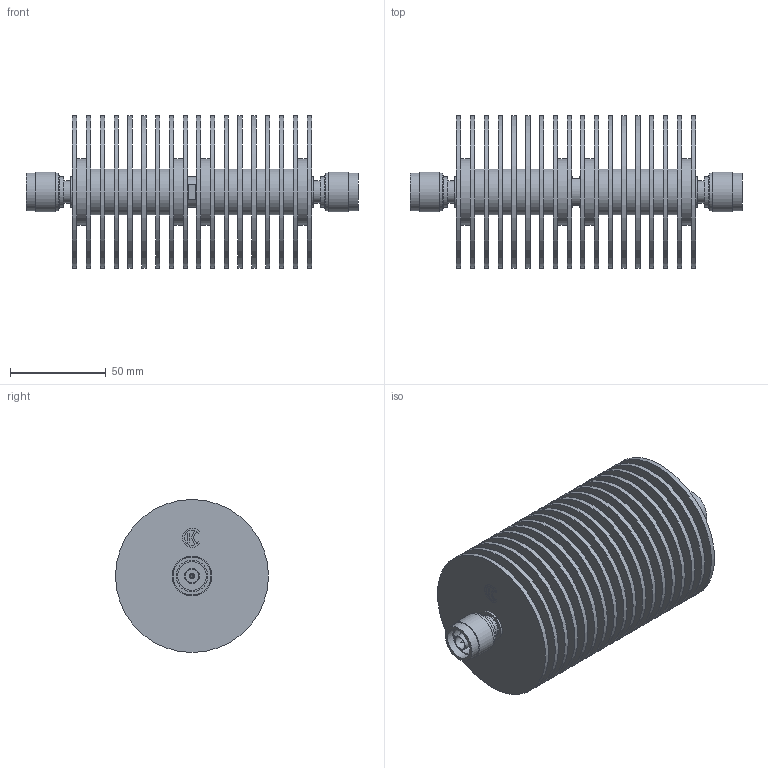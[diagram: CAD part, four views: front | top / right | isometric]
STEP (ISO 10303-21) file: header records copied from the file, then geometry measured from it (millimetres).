
FILE_DESCRIPTION(('STEP AP203'), '1');
FILE_NAME('ÏÐ1-25-100-IIIMM', '', ('UNSPECIFIED'), ('UNSPECIFIED'), 'C3D Converter', 'C3D Toolkit', '');
FILE_SCHEMA(('CONFIG_CONTROL_DESIGN'));
Length unit declared in the file: millimetre
Products named in the file (5): -01
Assembly tree (5 placements, depth 2):
  (unnamed)
    (unnamed)
    (unnamed)  x2
    (unnamed)
    -01
Bounding box: 173.7 x 80 x 80 mm (x, y, z)
Volume: 263563.2 mm3; surface area: 189774.4 mm2
Topology: 5 solids, 5 shells, 229 faces, 444 edges, 298 vertices
Faces by surface type: plane 140, cylinder 87, cone 2
Full cylindrical faces by diameter (mm): 1.65 x2, 3.04 x2, 7 x2, 8.04 x2, 9 x2, 11.6 x2, 12.7 x2, 14.94 x2, 15.75 x2, 16 x7, 16.5 x2, 17.46 x2, 17.8 x2, 19.8 x4, 20.85 x2, 24 x12, 35 x4, 80 x18
Entity records: 5058 total; most frequent: DIRECTION 678, CARTESIAN_POINT 576, ORIENTED_EDGE 456, AXIS2_PLACEMENT_3D 292, EDGE_LOOP 258, EDGE_CURVE 228, VERTEX_POINT 190, FACE_BOUND 159
